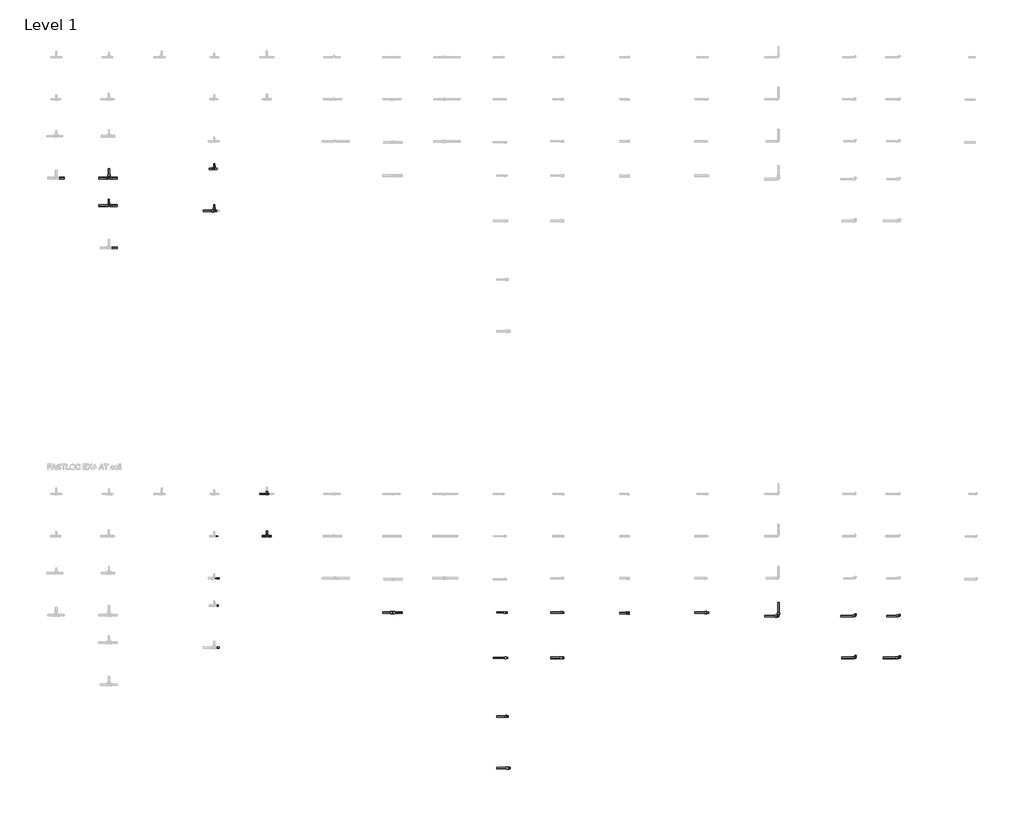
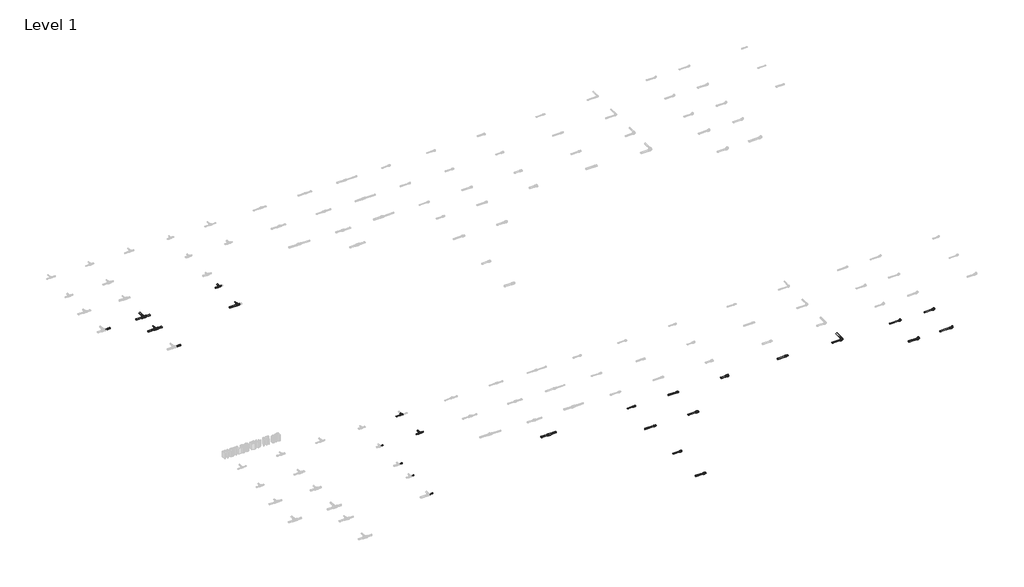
# One storey, part 7 of 16: 36 pipe segments, 20 pipe fittings.
"""IFC4 building model written with IfcOpenShell, lengths in millimetres."""

from ifc_helpers import new_model, si_unit, point, frame, frame_2d, origin, place, context, project, spatial, circle_curve, trimmed, segment, composite_curve, outline, extrude, transform, mapped, element, save
from components import pipe_fitting_5ed0d7cb, pipe_fitting_a2ce5f58, pipe_fitting_431f7250, pipe_fitting_a4fef31a, pipe_fitting_24cae873, pipe_fitting_eea56ca5, pipe_fitting_715ab4bf, pipe_fitting_cb24982a, pipe_fitting_3031d961, pipe_fitting_7921c085, pipe_fitting_502111f3, pipe_fitting_c3e7e8f9, pipe_fitting_baae1e9c, pipe_fitting_c646100e, pipe_fitting_f5731c1c, pipe_fitting_006a9863, pipe_fitting_fe659845, pipe_fitting_76e4ea32, pipe_fitting_18fcccac, pipe_fitting_1e296f3b

model = new_model("IFC4")

# Units and contexts
model_context = context("Model", 3, world=origin())
ifc_project = project(units=[si_unit("LENGTHUNIT", "METRE", prefix="MILLI")], contexts=[model_context])

# Site, building, storey
site = spatial("IfcSite", under=ifc_project)
building = spatial("IfcBuilding", under=site)
storey = spatial("IfcBuildingStorey", under=building, Name="Level 1", Elevation=0.0)

# Pipe fittings
placement = place(None, origin())
pipe_fitting_shape = pipe_fitting_5ed0d7cb(model_context)
element("IfcPipeFitting", 1, ObjectType="FASTLOC_Adapter_RX+, with external thread : FSL A C external EX+ AT", at=placement, inside=storey, context=model_context, shape_type="MappedRepresentation", body=[
    mapped(pipe_fitting_shape, transform((37498.2332092, -8539.0537829, 0.0), x_axis=(1.0, 0.0, 0.0), y_axis=(0.0, 1.0, 0.0), z_axis=(0.0, 0.0, 1.0))),
])
pipe_fitting_2_shape = pipe_fitting_a2ce5f58(model_context)
element("IfcPipeFitting", 2, ObjectType="FASTLOC_Adapter_RX+, with external thread : FSL A C external EX+ AT", at=placement, inside=storey, context=model_context, shape_type="MappedRepresentation", body=[
    mapped(pipe_fitting_2_shape, transform((37510.8952889, -9399.407392, 0.0), x_axis=(1.0, 0.0, 0.0), y_axis=(0.0, 1.0, 0.0), z_axis=(0.0, 0.0, 1.0))),
])
pipe_fitting_3_shape = pipe_fitting_431f7250(model_context)
element("IfcPipeFitting", 3, ObjectType="FASTLOC_Adapter_RX+, with external thread : FSL A C external EX+ AT", at=placement, inside=storey, context=model_context, shape_type="MappedRepresentation", body=[
    mapped(pipe_fitting_3_shape, transform((37515.9601208, -10513.6704117, 0.0), x_axis=(1.0, 0.0, 0.0), y_axis=(0.0, 1.0, 0.0), z_axis=(0.0, 0.0, 1.0))),
])
pipe_fitting_4_shape = pipe_fitting_a4fef31a(model_context)
element("IfcPipeFitting", 4, ObjectType="FASTLOC_Adapter_RX+, with external thread : FSL A C external EX+ AT", at=placement, inside=storey, context=model_context, shape_type="MappedRepresentation", body=[
    mapped(pipe_fitting_4_shape, transform((37553.9463601, -11493.7153858, 0.0), x_axis=(1.0, 0.0, 0.0), y_axis=(0.0, 1.0, 0.0), z_axis=(0.0, 0.0, 1.0))),
])
pipe_fitting_5_shape = pipe_fitting_24cae873(model_context)
element("IfcPipeFitting", 5, ObjectType="FASTLOC_Corner EX+ : FSL C EX+ AT", at=placement, inside=storey, context=model_context, shape_type="MappedRepresentation", body=[
    mapped(pipe_fitting_5_shape, transform((42675.3824015, -8604.9640428, 0.0), x_axis=(1.0, 0.0, 0.0), y_axis=(0.0, 1.0, 0.0), z_axis=(0.0, 0.0, 1.0))),
])
pipe_fitting_6_shape = pipe_fitting_eea56ca5(model_context)
element("IfcPipeFitting", 6, ObjectType="FASTLOC_Elbow with female thread EX+ : FSL A internal AT", at=placement, inside=storey, context=model_context, shape_type="MappedRepresentation", body=[
    mapped(pipe_fitting_6_shape, transform((44973.8113057, -8604.9640428, 0.0), x_axis=(1.0, 0.0, 0.0), y_axis=(0.0, 1.0, 0.0), z_axis=(0.0, 0.0, 1.0))),
])
pipe_fitting_7_shape = pipe_fitting_715ab4bf(model_context)
element("IfcPipeFitting", 7, ObjectType="FASTLOC_Elbow with female thread EX+ : FSL A internal AT", at=placement, inside=storey, context=model_context, shape_type="MappedRepresentation", body=[
    mapped(pipe_fitting_7_shape, transform((44973.8113057, -9399.407392, 0.0), x_axis=(1.0, 0.0, 0.0), y_axis=(0.0, 1.0, 0.0), z_axis=(0.0, 0.0, 1.0))),
])
pipe_fitting_8_shape = pipe_fitting_cb24982a(model_context)
element("IfcPipeFitting", 8, ObjectType="FASTLOC_Elbow with male thread EX+ : FSL A internal AT", at=placement, inside=storey, context=model_context, shape_type="MappedRepresentation", body=[
    mapped(pipe_fitting_8_shape, transform((44135.3824015, -8604.9640428, 0.0), x_axis=(1.0, 0.0, 0.0), y_axis=(0.0, 1.0, 0.0), z_axis=(0.0, 0.0, 1.0))),
])
pipe_fitting_9_shape = pipe_fitting_3031d961(model_context)
element("IfcPipeFitting", 9, ObjectType="FASTLOC_Elbow with male thread EX+ : FSL A internal AT", at=placement, inside=storey, context=model_context, shape_type="MappedRepresentation", body=[
    mapped(pipe_fitting_9_shape, transform((44135.3824015, -9399.407392, 0.0), x_axis=(1.0, 0.0, 0.0), y_axis=(0.0, 1.0, 0.0), z_axis=(0.0, 0.0, 1.0))),
])
pipe_fitting_10_shape = pipe_fitting_7921c085(model_context)
element("IfcPipeFitting", 10, ObjectType="FASTLOC_T-piece_EX+ : FSL T-Piece EX+ DE", at=placement, inside=storey, context=model_context, shape_type="MappedRepresentation", body=[
    mapped(pipe_fitting_10_shape, transform((29962.9146925, -287.6479967, 0.0), x_axis=(1.0, 0.0, 0.0), y_axis=(0.0, 1.0, 0.0), z_axis=(0.0, 0.0, 1.0))),
])
pipe_fitting_11_shape = pipe_fitting_502111f3(model_context)
element("IfcPipeFitting", 11, ObjectType="FASTLOC_T-piece_EX+ : FSL T-Piece EX+ DE", at=placement, inside=storey, context=model_context, shape_type="MappedRepresentation", body=[
    mapped(pipe_fitting_11_shape, transform((29962.9146925, -807.6479967, 0.0), x_axis=(1.0, 0.0, 0.0), y_axis=(0.0, 1.0, 0.0), z_axis=(0.0, 0.0, 1.0))),
])
pipe_fitting_12_shape = pipe_fitting_c3e7e8f9(model_context)
element("IfcPipeFitting", 12, ObjectType="FASTLOC_T-piece_EX+ : FSL T-Piece EX+ DE", at=placement, inside=storey, context=model_context, shape_type="MappedRepresentation", body=[
    mapped(pipe_fitting_12_shape, transform((31962.9146925, -907.6479967, 0.0), x_axis=(1.0, 0.0, 0.0), y_axis=(0.0, 1.0, 0.0), z_axis=(0.0, 0.0, 1.0))),
])
pipe_fitting_13_shape = pipe_fitting_baae1e9c(model_context)
element("IfcPipeFitting", 13, ObjectType="FASTLOC_T-piece_EX+ : FSL T-Piece EX+ DE", at=placement, inside=storey, context=model_context, shape_type="MappedRepresentation", body=[
    mapped(pipe_fitting_13_shape, transform((31962.9146925, -107.6479967, 0.0), x_axis=(1.0, 0.0, 0.0), y_axis=(0.0, 1.0, 0.0), z_axis=(0.0, 0.0, 1.0))),
])
pipe_fitting_14_shape = pipe_fitting_c646100e(model_context)
element("IfcPipeFitting", 14, ObjectType="FASTLOC_T-piece_EX+ : FSL T-Piece EX+ AT", at=placement, inside=storey, context=model_context, shape_type="MappedRepresentation", body=[
    mapped(pipe_fitting_14_shape, transform((32962.9146925, -7087.6479967, 0.0), x_axis=(1.0, 0.0, 0.0), y_axis=(0.0, 1.0, 0.0), z_axis=(0.0, 0.0, 1.0))),
])
pipe_fitting_15_shape = pipe_fitting_f5731c1c(model_context)
element("IfcPipeFitting", 15, ObjectType="FASTLOC_Coupling equal EX+ : FSL C EQ EX+ AT", at=placement, inside=storey, context=model_context, shape_type="MappedRepresentation", body=[
    mapped(pipe_fitting_15_shape, transform((35347.6401575, -8539.0537829, 0.0), x_axis=(1.0, 0.0, 0.0), y_axis=(0.0, 1.0, 0.0), z_axis=(0.0, 0.0, 1.0))),
])
pipe_fitting_16_shape = pipe_fitting_006a9863(model_context)
element("IfcPipeFitting", 16, ObjectType="FASTLOC_T-piece_EX+ : FSL T-Piece EX+ AT", at=placement, inside=storey, context=model_context, shape_type="MappedRepresentation", body=[
    mapped(pipe_fitting_16_shape, transform((32962.9146925, -6287.6479967, 0.0), x_axis=(1.0, 0.0, 0.0), y_axis=(0.0, 1.0, 0.0), z_axis=(0.0, 0.0, 1.0))),
])
pipe_fitting_17_shape = pipe_fitting_fe659845(model_context)
element("IfcPipeFitting", 17, ObjectType="FASTLOC Copper press adapter RX+ : FSL RX+ AT", at=placement, inside=storey, context=model_context, shape_type="MappedRepresentation", body=[
    mapped(pipe_fitting_17_shape, transform((41315.3824015, -8539.0537829, 0.0), x_axis=(1.0, 0.0, 0.0), y_axis=(0.0, 1.0, 0.0), z_axis=(0.0, 0.0, 1.0))),
])
pipe_fitting_18_shape = pipe_fitting_76e4ea32(model_context)
element("IfcPipeFitting", 18, ObjectType="FASTLOC_Adapter with union nut EX+ : FSL A union nut EX+ AT", at=placement, inside=storey, context=model_context, shape_type="MappedRepresentation", body=[
    mapped(pipe_fitting_18_shape, transform((39818.3503777, -8547.0537829, 0.0), x_axis=(1.0, 0.0, 0.0), y_axis=(0.0, 1.0, 0.0), z_axis=(0.0, 0.0, 1.0))),
])
pipe_fitting_19_shape = pipe_fitting_18fcccac(model_context)
element("IfcPipeFitting", 19, ObjectType="FASTLOC_Adapter_EX+, with internal thread : FSL A internal AT", at=placement, inside=storey, context=model_context, shape_type="MappedRepresentation", body=[
    mapped(pipe_fitting_19_shape, transform((38579.5143796, -8539.0537829, 0.0), x_axis=(1.0, 0.0, 0.0), y_axis=(0.0, 1.0, 0.0), z_axis=(0.0, 0.0, 1.0))),
])
pipe_fitting_20_shape = pipe_fitting_1e296f3b(model_context)
element("IfcPipeFitting", 20, ObjectType="FASTLOC_Adapter_EX+, with internal thread : FSL A internal AT", at=placement, inside=storey, context=model_context, shape_type="MappedRepresentation", body=[
    mapped(pipe_fitting_20_shape, transform((38579.5143796, -9399.407392, 0.0), x_axis=(1.0, 0.0, 0.0), y_axis=(0.0, 1.0, 0.0), z_axis=(0.0, 0.0, 1.0))),
])

# Pipe segments
element("IfcPipeSegment", 21, ObjectType="FASTLOC EX+ ML DE coil", at=placement, inside=storey, context=model_context, shape_type="SweptSolid", body=[
    extrude(outline(composite_curve([segment(trimmed(circle_curve(frame_2d((0.0, 31962.9146925)), 10.0), [point((0.0, 31972.9146925))], [point((10.0, 31962.9146925))], False, "CARTESIAN"), True, "CONTINUOUS"), segment(trimmed(circle_curve(frame_2d((0.0, 31962.9146925)), 10.0), [point((10.0, 31962.9146925))], [point((0.0, 31952.9146925))], False, "CARTESIAN"), True, "CONTINUOUS"), segment(trimmed(circle_curve(frame_2d((0.0, 31962.9146925)), 10.0), [point((0.0, 31952.9146925))], [point((-10.0, 31962.9146925))], False, "CARTESIAN"), True, "CONTINUOUS"), segment(trimmed(circle_curve(frame_2d((0.0, 31962.9146925)), 10.0), [point((-10.0, 31962.9146925))], [point((0.0, 31972.9146925))], False, "CARTESIAN"), True, "CONTINUOUS")], self_intersect=False)), frame((0.0, -78.4479967, 0.0), z_axis=(0.0, 1.0, 0.0), x_axis=(0.0, 0.0, 1.0)), (0.0, 0.0, 1.0), 65.0),
])
element("IfcPipeSegment", 22, ObjectType="FASTLOC EX+ ML DE coil", at=placement, inside=storey, context=model_context, shape_type="SweptSolid", body=[
    extrude(outline(composite_curve([segment(trimmed(circle_curve(frame_2d((-107.6479967, 0.0)), 12.5), [point((-95.1479967, 0.0))], [point((-107.6479967, -12.5))], False, "CARTESIAN"), True, "CONTINUOUS"), segment(trimmed(circle_curve(frame_2d((-107.6479967, 0.0)), 12.5), [point((-107.6479967, -12.5))], [point((-120.1479967, 0.0))], False, "CARTESIAN"), True, "CONTINUOUS"), segment(trimmed(circle_curve(frame_2d((-107.6479967, 0.0)), 12.5), [point((-120.1479967, 0.0))], [point((-107.6479967, 12.5))], False, "CARTESIAN"), True, "CONTINUOUS"), segment(trimmed(circle_curve(frame_2d((-107.6479967, 0.0)), 12.5), [point((-107.6479967, 12.5))], [point((-95.1479967, 0.0))], False, "CARTESIAN"), True, "CONTINUOUS")], self_intersect=False)), frame((31864.6146925, 0.0, 0.0), z_axis=(1.0, 0.0, 0.0), x_axis=(0.0, 1.0, 0.0)), (0.0, 0.0, 1.0), 80.0),
])
element("IfcPipeSegment", 23, ObjectType="FASTLOC EX+ ML DE coil", at=placement, inside=storey, context=model_context, shape_type="SweptSolid", body=[
    extrude(outline(composite_curve([segment(trimmed(circle_curve(frame_2d((0.0, 31962.9146925)), 12.5), [point((0.0, 31975.4146925))], [point((12.5, 31962.9146925))], False, "CARTESIAN"), True, "CONTINUOUS"), segment(trimmed(circle_curve(frame_2d((0.0, 31962.9146925)), 12.5), [point((12.5, 31962.9146925))], [point((0.0, 31950.4146925))], False, "CARTESIAN"), True, "CONTINUOUS"), segment(trimmed(circle_curve(frame_2d((0.0, 31962.9146925)), 12.5), [point((0.0, 31950.4146925))], [point((-12.5, 31962.9146925))], False, "CARTESIAN"), True, "CONTINUOUS"), segment(trimmed(circle_curve(frame_2d((0.0, 31962.9146925)), 12.5), [point((-12.5, 31962.9146925))], [point((0.0, 31975.4146925))], False, "CARTESIAN"), True, "CONTINUOUS")], self_intersect=False)), frame((0.0, -873.2479967, 0.0), z_axis=(0.0, 1.0, 0.0), x_axis=(0.0, 0.0, 1.0)), (0.0, 0.0, 1.0), 85.0),
])
element("IfcPipeSegment", 24, ObjectType="FASTLOC EX+ ML DE coil", at=placement, inside=storey, context=model_context, shape_type="SweptSolid", body=[
    extrude(outline(composite_curve([segment(trimmed(circle_curve(frame_2d((-907.6479967, 0.0)), 16.0), [point((-891.6479967, 0.0))], [point((-907.6479967, -16.0))], False, "CARTESIAN"), True, "CONTINUOUS"), segment(trimmed(circle_curve(frame_2d((-907.6479967, 0.0)), 16.0), [point((-907.6479967, -16.0))], [point((-923.6479967, 0.0))], False, "CARTESIAN"), True, "CONTINUOUS"), segment(trimmed(circle_curve(frame_2d((-907.6479967, 0.0)), 16.0), [point((-923.6479967, 0.0))], [point((-907.6479967, 16.0))], False, "CARTESIAN"), True, "CONTINUOUS"), segment(trimmed(circle_curve(frame_2d((-907.6479967, 0.0)), 16.0), [point((-907.6479967, 16.0))], [point((-891.6479967, 0.0))], False, "CARTESIAN"), True, "CONTINUOUS")], self_intersect=False)), frame((31755.8146925, 0.0, 0.0), z_axis=(1.0, 0.0, 0.0), x_axis=(0.0, 1.0, 0.0)), (0.0, 0.0, 1.0), 185.0),
])
element("IfcPipeSegment", 25, ObjectType="FASTLOC EX+ ML DE coil", at=placement, inside=storey, context=model_context, shape_type="SweptSolid", body=[
    extrude(outline(composite_curve([segment(trimmed(circle_curve(frame_2d((-287.6479967, 0.0)), 16.0), [point((-303.6479967, 0.0))], [point((-287.6479967, 16.0))], False, "CARTESIAN"), True, "CONTINUOUS"), segment(trimmed(circle_curve(frame_2d((-287.6479967, 0.0)), 16.0), [point((-287.6479967, 16.0))], [point((-271.6479967, 0.0))], False, "CARTESIAN"), True, "CONTINUOUS"), segment(trimmed(circle_curve(frame_2d((-287.6479967, 0.0)), 16.0), [point((-271.6479967, 0.0))], [point((-287.6479967, -16.0))], False, "CARTESIAN"), True, "CONTINUOUS"), segment(trimmed(circle_curve(frame_2d((-287.6479967, 0.0)), 16.0), [point((-287.6479967, -16.0))], [point((-303.6479967, 0.0))], False, "CARTESIAN"), True, "CONTINUOUS")], self_intersect=False)), frame((29987.7146925, 0.0, 0.0), z_axis=(1.0, 0.0, 0.0), x_axis=(0.0, 1.0, 0.0)), (0.0, 0.0, 1.0), 130.0),
])
element("IfcPipeSegment", 26, ObjectType="FASTLOC EX+ ML DE coil", at=placement, inside=storey, context=model_context, shape_type="SweptSolid", body=[
    extrude(outline(composite_curve([segment(trimmed(circle_curve(frame_2d((0.0, 29962.9146925)), 16.0), [point((0.0, 29978.9146925))], [point((16.0, 29962.9146925))], False, "CARTESIAN"), True, "CONTINUOUS"), segment(trimmed(circle_curve(frame_2d((0.0, 29962.9146925)), 16.0), [point((16.0, 29962.9146925))], [point((0.0, 29946.9146925))], False, "CARTESIAN"), True, "CONTINUOUS"), segment(trimmed(circle_curve(frame_2d((0.0, 29962.9146925)), 16.0), [point((0.0, 29946.9146925))], [point((-16.0, 29962.9146925))], False, "CARTESIAN"), True, "CONTINUOUS"), segment(trimmed(circle_curve(frame_2d((0.0, 29962.9146925)), 16.0), [point((-16.0, 29962.9146925))], [point((0.0, 29978.9146925))], False, "CARTESIAN"), True, "CONTINUOUS")], self_intersect=False)), frame((0.0, -251.5479967, 0.0), z_axis=(0.0, 1.0, 0.0), x_axis=(0.0, 0.0, 1.0)), (0.0, 0.0, 1.0), 145.0),
])
element("IfcPipeSegment", 27, ObjectType="FASTLOC EX+ ML DE coil", at=placement, inside=storey, context=model_context, shape_type="SweptSolid", body=[
    extrude(outline(composite_curve([segment(trimmed(circle_curve(frame_2d((-287.6479967, 0.0)), 16.0), [point((-271.6479967, 0.0))], [point((-287.6479967, -16.0))], False, "CARTESIAN"), True, "CONTINUOUS"), segment(trimmed(circle_curve(frame_2d((-287.6479967, 0.0)), 16.0), [point((-287.6479967, -16.0))], [point((-303.6479967, 0.0))], False, "CARTESIAN"), True, "CONTINUOUS"), segment(trimmed(circle_curve(frame_2d((-287.6479967, 0.0)), 16.0), [point((-303.6479967, 0.0))], [point((-287.6479967, 16.0))], False, "CARTESIAN"), True, "CONTINUOUS"), segment(trimmed(circle_curve(frame_2d((-287.6479967, 0.0)), 16.0), [point((-287.6479967, 16.0))], [point((-271.6479967, 0.0))], False, "CARTESIAN"), True, "CONTINUOUS")], self_intersect=False)), frame((29773.1146925, 0.0, 0.0), z_axis=(1.0, 0.0, 0.0), x_axis=(0.0, 1.0, 0.0)), (0.0, 0.0, 1.0), 165.0),
])
element("IfcPipeSegment", 28, ObjectType="FASTLOC EX+ ML DE coil", at=placement, inside=storey, context=model_context, shape_type="SweptSolid", body=[
    extrude(outline(composite_curve([segment(trimmed(circle_curve(frame_2d((-807.6479967, 0.0)), 16.0), [point((-823.6479967, 0.0))], [point((-807.6479967, 16.0))], False, "CARTESIAN"), True, "CONTINUOUS"), segment(trimmed(circle_curve(frame_2d((-807.6479967, 0.0)), 16.0), [point((-807.6479967, 16.0))], [point((-791.6479967, 0.0))], False, "CARTESIAN"), True, "CONTINUOUS"), segment(trimmed(circle_curve(frame_2d((-807.6479967, 0.0)), 16.0), [point((-791.6479967, 0.0))], [point((-807.6479967, -16.0))], False, "CARTESIAN"), True, "CONTINUOUS"), segment(trimmed(circle_curve(frame_2d((-807.6479967, 0.0)), 16.0), [point((-807.6479967, -16.0))], [point((-823.6479967, 0.0))], False, "CARTESIAN"), True, "CONTINUOUS")], self_intersect=False)), frame((29983.1146925, 0.0, 0.0), z_axis=(1.0, 0.0, 0.0), x_axis=(0.0, 1.0, 0.0)), (0.0, 0.0, 1.0), 134.6),
])
element("IfcPipeSegment", 29, ObjectType="FASTLOC EX+ ML DE coil", at=placement, inside=storey, context=model_context, shape_type="SweptSolid", body=[
    extrude(outline(composite_curve([segment(trimmed(circle_curve(frame_2d((-807.6479967, 0.0)), 16.0), [point((-791.6479967, 0.0))], [point((-807.6479967, -16.0))], False, "CARTESIAN"), True, "CONTINUOUS"), segment(trimmed(circle_curve(frame_2d((-807.6479967, 0.0)), 16.0), [point((-807.6479967, -16.0))], [point((-823.6479967, 0.0))], False, "CARTESIAN"), True, "CONTINUOUS"), segment(trimmed(circle_curve(frame_2d((-807.6479967, 0.0)), 16.0), [point((-823.6479967, 0.0))], [point((-807.6479967, 16.0))], False, "CARTESIAN"), True, "CONTINUOUS"), segment(trimmed(circle_curve(frame_2d((-807.6479967, 0.0)), 16.0), [point((-807.6479967, 16.0))], [point((-791.6479967, 0.0))], False, "CARTESIAN"), True, "CONTINUOUS")], self_intersect=False)), frame((29773.1146925, 0.0, 0.0), z_axis=(1.0, 0.0, 0.0), x_axis=(0.0, 1.0, 0.0)), (0.0, 0.0, 1.0), 169.6),
])
element("IfcPipeSegment", 30, ObjectType="FASTLOC EX+ ML DE coil", at=placement, inside=storey, context=model_context, shape_type="SweptSolid", body=[
    extrude(outline(composite_curve([segment(trimmed(circle_curve(frame_2d((0.0, 29962.9146925)), 10.0), [point((0.0, 29972.9146925))], [point((10.0, 29962.9146925))], False, "CARTESIAN"), True, "CONTINUOUS"), segment(trimmed(circle_curve(frame_2d((0.0, 29962.9146925)), 10.0), [point((10.0, 29962.9146925))], [point((0.0, 29952.9146925))], False, "CARTESIAN"), True, "CONTINUOUS"), segment(trimmed(circle_curve(frame_2d((0.0, 29962.9146925)), 10.0), [point((0.0, 29952.9146925))], [point((-10.0, 29962.9146925))], False, "CARTESIAN"), True, "CONTINUOUS"), segment(trimmed(circle_curve(frame_2d((0.0, 29962.9146925)), 10.0), [point((-10.0, 29962.9146925))], [point((0.0, 29972.9146925))], False, "CARTESIAN"), True, "CONTINUOUS")], self_intersect=False)), frame((0.0, -773.6479967, 0.0), z_axis=(0.0, 1.0, 0.0), x_axis=(0.0, 0.0, 1.0)), (0.0, 0.0, 1.0), 90.0),
])
element("IfcPipeSegment", 31, ObjectType="FASTLOC EX+ ML DE coil", at=placement, inside=storey, context=model_context, shape_type="SweptSolid", body=[
    extrude(outline(composite_curve([segment(trimmed(circle_curve(frame_2d((-1607.6479967, 0.0)), 16.0), [point((-1623.6479967, 0.0))], [point((-1607.6479967, 16.0))], False, "CARTESIAN"), True, "CONTINUOUS"), segment(trimmed(circle_curve(frame_2d((-1607.6479967, 0.0)), 16.0), [point((-1607.6479967, 16.0))], [point((-1591.6479967, 0.0))], False, "CARTESIAN"), True, "CONTINUOUS"), segment(trimmed(circle_curve(frame_2d((-1607.6479967, 0.0)), 16.0), [point((-1591.6479967, 0.0))], [point((-1607.6479967, -16.0))], False, "CARTESIAN"), True, "CONTINUOUS"), segment(trimmed(circle_curve(frame_2d((-1607.6479967, 0.0)), 16.0), [point((-1607.6479967, -16.0))], [point((-1623.6479967, 0.0))], False, "CARTESIAN"), True, "CONTINUOUS")], self_intersect=False)), frame((29984.9146925, 0.0, 0.0), z_axis=(1.0, 0.0, 0.0), x_axis=(0.0, 1.0, 0.0)), (0.0, 0.0, 1.0), 132.8),
])
element("IfcPipeSegment", 32, ObjectType="FASTLOC EX+ ML DE coil", at=placement, inside=storey, context=model_context, shape_type="SweptSolid", body=[
    extrude(outline(composite_curve([segment(trimmed(circle_curve(frame_2d((-287.6479967, 0.0)), 16.0), [point((-303.6479967, 0.0))], [point((-287.6479967, 16.0))], False, "CARTESIAN"), True, "CONTINUOUS"), segment(trimmed(circle_curve(frame_2d((-287.6479967, 0.0)), 16.0), [point((-287.6479967, 16.0))], [point((-271.6479967, 0.0))], False, "CARTESIAN"), True, "CONTINUOUS"), segment(trimmed(circle_curve(frame_2d((-287.6479967, 0.0)), 16.0), [point((-271.6479967, 0.0))], [point((-287.6479967, -16.0))], False, "CARTESIAN"), True, "CONTINUOUS"), segment(trimmed(circle_curve(frame_2d((-287.6479967, 0.0)), 16.0), [point((-287.6479967, -16.0))], [point((-303.6479967, 0.0))], False, "CARTESIAN"), True, "CONTINUOUS")], self_intersect=False)), frame((28987.7146925, 0.0, 0.0), z_axis=(1.0, 0.0, 0.0), x_axis=(0.0, 1.0, 0.0)), (0.0, 0.0, 1.0), 130.0),
])
element("IfcPipeSegment", 33, ObjectType="FASTLOC EX+ ML AT coil", at=placement, inside=storey, context=model_context, shape_type="SweptSolid", body=[
    extrude(outline(composite_curve([segment(trimmed(circle_curve(frame_2d((-8604.9640428, 0.0)), 12.5), [point((-8592.4640428, 0.0))], [point((-8604.9640428, -12.5))], False, "CARTESIAN"), True, "CONTINUOUS"), segment(trimmed(circle_curve(frame_2d((-8604.9640428, 0.0)), 12.5), [point((-8604.9640428, -12.5))], [point((-8617.4640428, 0.0))], False, "CARTESIAN"), True, "CONTINUOUS"), segment(trimmed(circle_curve(frame_2d((-8604.9640428, 0.0)), 12.5), [point((-8617.4640428, 0.0))], [point((-8604.9640428, 12.5))], False, "CARTESIAN"), True, "CONTINUOUS"), segment(trimmed(circle_curve(frame_2d((-8604.9640428, 0.0)), 12.5), [point((-8604.9640428, 12.5))], [point((-8592.4640428, 0.0))], False, "CARTESIAN"), True, "CONTINUOUS")], self_intersect=False)), frame((44726.8113057, 0.0, 0.0), z_axis=(1.0, 0.0, 0.0), x_axis=(0.0, 1.0, 0.0)), (0.0, 0.0, 1.0), 220.0),
])
element("IfcPipeSegment", 34, ObjectType="FASTLOC EX+ ML AT coil", at=placement, inside=storey, context=model_context, shape_type="SweptSolid", body=[
    extrude(outline(composite_curve([segment(trimmed(circle_curve(frame_2d((-8604.9640428, 0.0)), 12.5), [point((-8592.4640428, 0.0))], [point((-8604.9640428, -12.5))], False, "CARTESIAN"), True, "CONTINUOUS"), segment(trimmed(circle_curve(frame_2d((-8604.9640428, 0.0)), 12.5), [point((-8604.9640428, -12.5))], [point((-8617.4640428, 0.0))], False, "CARTESIAN"), True, "CONTINUOUS"), segment(trimmed(circle_curve(frame_2d((-8604.9640428, 0.0)), 12.5), [point((-8617.4640428, 0.0))], [point((-8604.9640428, 12.5))], False, "CARTESIAN"), True, "CONTINUOUS"), segment(trimmed(circle_curve(frame_2d((-8604.9640428, 0.0)), 12.5), [point((-8604.9640428, 12.5))], [point((-8592.4640428, 0.0))], False, "CARTESIAN"), True, "CONTINUOUS")], self_intersect=False)), frame((43861.1824015, 0.0, 0.0), z_axis=(1.0, 0.0, 0.0), x_axis=(0.0, 1.0, 0.0)), (0.0, 0.0, 1.0), 250.0),
])
element("IfcPipeSegment", 35, ObjectType="FASTLOC EX+ ML AT coil", at=placement, inside=storey, context=model_context, shape_type="SweptSolid", body=[
    extrude(outline(composite_curve([segment(trimmed(circle_curve(frame_2d((-9399.407392, 0.0)), 16.0), [point((-9383.407392, 0.0))], [point((-9399.407392, -16.0))], False, "CARTESIAN"), True, "CONTINUOUS"), segment(trimmed(circle_curve(frame_2d((-9399.407392, 0.0)), 16.0), [point((-9399.407392, -16.0))], [point((-9415.407392, 0.0))], False, "CARTESIAN"), True, "CONTINUOUS"), segment(trimmed(circle_curve(frame_2d((-9399.407392, 0.0)), 16.0), [point((-9415.407392, 0.0))], [point((-9399.407392, 16.0))], False, "CARTESIAN"), True, "CONTINUOUS"), segment(trimmed(circle_curve(frame_2d((-9399.407392, 0.0)), 16.0), [point((-9399.407392, 16.0))], [point((-9383.407392, 0.0))], False, "CARTESIAN"), True, "CONTINUOUS")], self_intersect=False)), frame((43875.6824015, 0.0, 0.0), z_axis=(1.0, 0.0, 0.0), x_axis=(0.0, 1.0, 0.0)), (0.0, 0.0, 1.0), 230.0),
])
element("IfcPipeSegment", 36, ObjectType="FASTLOC EX+ ML AT coil", at=placement, inside=storey, context=model_context, shape_type="SweptSolid", body=[
    extrude(outline(composite_curve([segment(trimmed(circle_curve(frame_2d((-9399.407392, 0.0)), 16.0), [point((-9383.407392, 0.0))], [point((-9399.407392, -16.0))], False, "CARTESIAN"), True, "CONTINUOUS"), segment(trimmed(circle_curve(frame_2d((-9399.407392, 0.0)), 16.0), [point((-9399.407392, -16.0))], [point((-9415.407392, 0.0))], False, "CARTESIAN"), True, "CONTINUOUS"), segment(trimmed(circle_curve(frame_2d((-9399.407392, 0.0)), 16.0), [point((-9415.407392, 0.0))], [point((-9399.407392, 16.0))], False, "CARTESIAN"), True, "CONTINUOUS"), segment(trimmed(circle_curve(frame_2d((-9399.407392, 0.0)), 16.0), [point((-9399.407392, 16.0))], [point((-9383.407392, 0.0))], False, "CARTESIAN"), True, "CONTINUOUS")], self_intersect=False)), frame((44661.8113057, 0.0, 0.0), z_axis=(1.0, 0.0, 0.0), x_axis=(0.0, 1.0, 0.0)), (0.0, 0.0, 1.0), 280.0),
])
element("IfcPipeSegment", 37, ObjectType="FASTLOC EX+ ML AT coil", at=placement, inside=storey, context=model_context, shape_type="SweptSolid", body=[
    extrude(outline(composite_curve([segment(trimmed(circle_curve(frame_2d((0.0, 42675.3824015)), 16.0), [point((0.0, 42691.3824015))], [point((16.0, 42675.3824015))], False, "CARTESIAN"), True, "CONTINUOUS"), segment(trimmed(circle_curve(frame_2d((0.0, 42675.3824015)), 16.0), [point((16.0, 42675.3824015))], [point((0.0, 42659.3824015))], False, "CARTESIAN"), True, "CONTINUOUS"), segment(trimmed(circle_curve(frame_2d((0.0, 42675.3824015)), 16.0), [point((0.0, 42659.3824015))], [point((-16.0, 42675.3824015))], False, "CARTESIAN"), True, "CONTINUOUS"), segment(trimmed(circle_curve(frame_2d((0.0, 42675.3824015)), 16.0), [point((-16.0, 42675.3824015))], [point((0.0, 42691.3824015))], False, "CARTESIAN"), True, "CONTINUOUS")], self_intersect=False)), frame((0.0, -8569.9640428, 0.0), z_axis=(0.0, 1.0, 0.0), x_axis=(0.0, 0.0, 1.0)), (0.0, 0.0, 1.0), 220.0),
])
element("IfcPipeSegment", 38, ObjectType="FASTLOC EX+ ML AT coil", at=placement, inside=storey, context=model_context, shape_type="SweptSolid", body=[
    extrude(outline(composite_curve([segment(trimmed(circle_curve(frame_2d((-8604.9640428, 0.0)), 16.0), [point((-8588.9640428, 0.0))], [point((-8604.9640428, -16.0))], False, "CARTESIAN"), True, "CONTINUOUS"), segment(trimmed(circle_curve(frame_2d((-8604.9640428, 0.0)), 16.0), [point((-8604.9640428, -16.0))], [point((-8620.9640428, 0.0))], False, "CARTESIAN"), True, "CONTINUOUS"), segment(trimmed(circle_curve(frame_2d((-8604.9640428, 0.0)), 16.0), [point((-8620.9640428, 0.0))], [point((-8604.9640428, 16.0))], False, "CARTESIAN"), True, "CONTINUOUS"), segment(trimmed(circle_curve(frame_2d((-8604.9640428, 0.0)), 16.0), [point((-8604.9640428, 16.0))], [point((-8588.9640428, 0.0))], False, "CARTESIAN"), True, "CONTINUOUS")], self_intersect=False)), frame((42413.2824015, 0.0, 0.0), z_axis=(1.0, 0.0, 0.0), x_axis=(0.0, 1.0, 0.0)), (0.0, 0.0, 1.0), 227.1),
])
element("IfcPipeSegment", 39, ObjectType="FASTLOC EX+ ML AT coil", at=placement, inside=storey, context=model_context, shape_type="SweptSolid", body=[
    extrude(outline(composite_curve([segment(trimmed(circle_curve(frame_2d((-8539.0537829, 0.0)), 16.0), [point((-8523.0537829, 0.0))], [point((-8539.0537829, -16.0))], False, "CARTESIAN"), True, "CONTINUOUS"), segment(trimmed(circle_curve(frame_2d((-8539.0537829, 0.0)), 16.0), [point((-8539.0537829, -16.0))], [point((-8555.0537829, 0.0))], False, "CARTESIAN"), True, "CONTINUOUS"), segment(trimmed(circle_curve(frame_2d((-8539.0537829, 0.0)), 16.0), [point((-8555.0537829, 0.0))], [point((-8539.0537829, 16.0))], False, "CARTESIAN"), True, "CONTINUOUS"), segment(trimmed(circle_curve(frame_2d((-8539.0537829, 0.0)), 16.0), [point((-8539.0537829, 16.0))], [point((-8523.0537829, 0.0))], False, "CARTESIAN"), True, "CONTINUOUS")], self_intersect=False)), frame((41082.2824015, 0.0, 0.0), z_axis=(1.0, 0.0, 0.0), x_axis=(0.0, 1.0, 0.0)), (0.0, 0.0, 1.0), 220.0),
])
element("IfcPipeSegment", 40, ObjectType="FASTLOC EX+ ML AT coil", at=placement, inside=storey, context=model_context, shape_type="SweptSolid", body=[
    extrude(outline(composite_curve([segment(trimmed(circle_curve(frame_2d((-8547.0537829, 0.0)), 16.0), [point((-8531.0537829, 0.0))], [point((-8547.0537829, -16.0))], False, "CARTESIAN"), True, "CONTINUOUS"), segment(trimmed(circle_curve(frame_2d((-8547.0537829, 0.0)), 16.0), [point((-8547.0537829, -16.0))], [point((-8563.0537829, 0.0))], False, "CARTESIAN"), True, "CONTINUOUS"), segment(trimmed(circle_curve(frame_2d((-8547.0537829, 0.0)), 16.0), [point((-8563.0537829, 0.0))], [point((-8547.0537829, 16.0))], False, "CARTESIAN"), True, "CONTINUOUS"), segment(trimmed(circle_curve(frame_2d((-8547.0537829, 0.0)), 16.0), [point((-8547.0537829, 16.0))], [point((-8531.0537829, 0.0))], False, "CARTESIAN"), True, "CONTINUOUS")], self_intersect=False)), frame((39659.3503777, 0.0, 0.0), z_axis=(1.0, 0.0, 0.0), x_axis=(0.0, 1.0, 0.0)), (0.0, 0.0, 1.0), 147.5),
])
element("IfcPipeSegment", 41, ObjectType="FASTLOC EX+ ML AT coil", at=placement, inside=storey, context=model_context, shape_type="SweptSolid", body=[
    extrude(outline(composite_curve([segment(trimmed(circle_curve(frame_2d((-8539.0537829, 0.0)), 12.5), [point((-8526.5537829, 0.0))], [point((-8539.0537829, -12.5))], False, "CARTESIAN"), True, "CONTINUOUS"), segment(trimmed(circle_curve(frame_2d((-8539.0537829, 0.0)), 12.5), [point((-8539.0537829, -12.5))], [point((-8551.5537829, 0.0))], False, "CARTESIAN"), True, "CONTINUOUS"), segment(trimmed(circle_curve(frame_2d((-8539.0537829, 0.0)), 12.5), [point((-8551.5537829, 0.0))], [point((-8539.0537829, 12.5))], False, "CARTESIAN"), True, "CONTINUOUS"), segment(trimmed(circle_curve(frame_2d((-8539.0537829, 0.0)), 12.5), [point((-8539.0537829, 12.5))], [point((-8526.5537829, 0.0))], False, "CARTESIAN"), True, "CONTINUOUS")], self_intersect=False)), frame((38346.6143796, 0.0, 0.0), z_axis=(1.0, 0.0, 0.0), x_axis=(0.0, 1.0, 0.0)), (0.0, 0.0, 1.0), 220.0),
])
element("IfcPipeSegment", 42, ObjectType="FASTLOC EX+ ML AT coil", at=placement, inside=storey, context=model_context, shape_type="SweptSolid", body=[
    extrude(outline(composite_curve([segment(trimmed(circle_curve(frame_2d((-9399.407392, 0.0)), 16.0), [point((-9383.407392, 0.0))], [point((-9399.407392, -16.0))], False, "CARTESIAN"), True, "CONTINUOUS"), segment(trimmed(circle_curve(frame_2d((-9399.407392, 0.0)), 16.0), [point((-9399.407392, -16.0))], [point((-9415.407392, 0.0))], False, "CARTESIAN"), True, "CONTINUOUS"), segment(trimmed(circle_curve(frame_2d((-9399.407392, 0.0)), 16.0), [point((-9415.407392, 0.0))], [point((-9399.407392, 16.0))], False, "CARTESIAN"), True, "CONTINUOUS"), segment(trimmed(circle_curve(frame_2d((-9399.407392, 0.0)), 16.0), [point((-9399.407392, 16.0))], [point((-9383.407392, 0.0))], False, "CARTESIAN"), True, "CONTINUOUS")], self_intersect=False)), frame((38346.6143796, 0.0, 0.0), z_axis=(1.0, 0.0, 0.0), x_axis=(0.0, 1.0, 0.0)), (0.0, 0.0, 1.0), 218.4),
])
element("IfcPipeSegment", 43, ObjectType="FASTLOC EX+ ML AT coil", at=placement, inside=storey, context=model_context, shape_type="SweptSolid", body=[
    extrude(outline(composite_curve([segment(trimmed(circle_curve(frame_2d((-10513.6704117, 0.0)), 12.5), [point((-10501.1704117, 0.0))], [point((-10513.6704117, -12.5))], False, "CARTESIAN"), True, "CONTINUOUS"), segment(trimmed(circle_curve(frame_2d((-10513.6704117, 0.0)), 12.5), [point((-10513.6704117, -12.5))], [point((-10526.1704117, 0.0))], False, "CARTESIAN"), True, "CONTINUOUS"), segment(trimmed(circle_curve(frame_2d((-10513.6704117, 0.0)), 12.5), [point((-10526.1704117, 0.0))], [point((-10513.6704117, 12.5))], False, "CARTESIAN"), True, "CONTINUOUS"), segment(trimmed(circle_curve(frame_2d((-10513.6704117, 0.0)), 12.5), [point((-10513.6704117, 12.5))], [point((-10501.1704117, 0.0))], False, "CARTESIAN"), True, "CONTINUOUS")], self_intersect=False)), frame((37326.5601208, 0.0, 0.0), z_axis=(1.0, 0.0, 0.0), x_axis=(0.0, 1.0, 0.0)), (0.0, 0.0, 1.0), 180.0),
])
element("IfcPipeSegment", 44, ObjectType="FASTLOC EX+ ML AT coil", at=placement, inside=storey, context=model_context, shape_type="SweptSolid", body=[
    extrude(outline(composite_curve([segment(trimmed(circle_curve(frame_2d((-9399.407392, 0.0)), 12.5), [point((-9386.907392, 0.0))], [point((-9399.407392, -12.5))], False, "CARTESIAN"), True, "CONTINUOUS"), segment(trimmed(circle_curve(frame_2d((-9399.407392, 0.0)), 12.5), [point((-9399.407392, -12.5))], [point((-9411.907392, 0.0))], False, "CARTESIAN"), True, "CONTINUOUS"), segment(trimmed(circle_curve(frame_2d((-9399.407392, 0.0)), 12.5), [point((-9411.907392, 0.0))], [point((-9399.407392, 12.5))], False, "CARTESIAN"), True, "CONTINUOUS"), segment(trimmed(circle_curve(frame_2d((-9399.407392, 0.0)), 12.5), [point((-9399.407392, 12.5))], [point((-9386.907392, 0.0))], False, "CARTESIAN"), True, "CONTINUOUS")], self_intersect=False)), frame((37261.4952889, 0.0, 0.0), z_axis=(1.0, 0.0, 0.0), x_axis=(0.0, 1.0, 0.0)), (0.0, 0.0, 1.0), 240.0),
])
element("IfcPipeSegment", 45, ObjectType="FASTLOC EX+ ML AT coil", at=placement, inside=storey, context=model_context, shape_type="SweptSolid", body=[
    extrude(outline(composite_curve([segment(trimmed(circle_curve(frame_2d((-8539.0537829, 0.0)), 10.0), [point((-8529.0537829, 0.0))], [point((-8539.0537829, -10.0))], False, "CARTESIAN"), True, "CONTINUOUS"), segment(trimmed(circle_curve(frame_2d((-8539.0537829, 0.0)), 10.0), [point((-8539.0537829, -10.0))], [point((-8549.0537829, 0.0))], False, "CARTESIAN"), True, "CONTINUOUS"), segment(trimmed(circle_curve(frame_2d((-8539.0537829, 0.0)), 10.0), [point((-8549.0537829, 0.0))], [point((-8539.0537829, 10.0))], False, "CARTESIAN"), True, "CONTINUOUS"), segment(trimmed(circle_curve(frame_2d((-8539.0537829, 0.0)), 10.0), [point((-8539.0537829, 10.0))], [point((-8529.0537829, 0.0))], False, "CARTESIAN"), True, "CONTINUOUS")], self_intersect=False)), frame((37326.5601208, 0.0, 0.0), z_axis=(1.0, 0.0, 0.0), x_axis=(0.0, 1.0, 0.0)), (0.0, 0.0, 1.0), 162.3730883),
])
element("IfcPipeSegment", 46, ObjectType="FASTLOC EX+ ML AT coil", at=placement, inside=storey, context=model_context, shape_type="SweptSolid", body=[
    extrude(outline(composite_curve([segment(trimmed(circle_curve(frame_2d((-8539.0537829, 0.0)), 16.0), [point((-8555.0537829, 0.0))], [point((-8539.0537829, 16.0))], False, "CARTESIAN"), True, "CONTINUOUS"), segment(trimmed(circle_curve(frame_2d((-8539.0537829, 0.0)), 16.0), [point((-8539.0537829, 16.0))], [point((-8523.0537829, 0.0))], False, "CARTESIAN"), True, "CONTINUOUS"), segment(trimmed(circle_curve(frame_2d((-8539.0537829, 0.0)), 16.0), [point((-8523.0537829, 0.0))], [point((-8539.0537829, -16.0))], False, "CARTESIAN"), True, "CONTINUOUS"), segment(trimmed(circle_curve(frame_2d((-8539.0537829, 0.0)), 16.0), [point((-8539.0537829, -16.0))], [point((-8555.0537829, 0.0))], False, "CARTESIAN"), True, "CONTINUOUS")], self_intersect=False)), frame((35357.6401575, 0.0, 0.0), z_axis=(1.0, 0.0, 0.0), x_axis=(0.0, 1.0, 0.0)), (0.0, 0.0, 1.0), 178.0),
])
element("IfcPipeSegment", 47, ObjectType="FASTLOC EX+ ML AT coil", at=placement, inside=storey, context=model_context, shape_type="SweptSolid", body=[
    extrude(outline(composite_curve([segment(trimmed(circle_curve(frame_2d((-8539.0537829, 0.0)), 16.0), [point((-8523.0537829, 0.0))], [point((-8539.0537829, -16.0))], False, "CARTESIAN"), True, "CONTINUOUS"), segment(trimmed(circle_curve(frame_2d((-8539.0537829, 0.0)), 16.0), [point((-8539.0537829, -16.0))], [point((-8555.0537829, 0.0))], False, "CARTESIAN"), True, "CONTINUOUS"), segment(trimmed(circle_curve(frame_2d((-8539.0537829, 0.0)), 16.0), [point((-8555.0537829, 0.0))], [point((-8539.0537829, 16.0))], False, "CARTESIAN"), True, "CONTINUOUS"), segment(trimmed(circle_curve(frame_2d((-8539.0537829, 0.0)), 16.0), [point((-8539.0537829, 16.0))], [point((-8523.0537829, 0.0))], False, "CARTESIAN"), True, "CONTINUOUS")], self_intersect=False)), frame((35157.6401575, 0.0, 0.0), z_axis=(1.0, 0.0, 0.0), x_axis=(0.0, 1.0, 0.0)), (0.0, 0.0, 1.0), 180.0),
])
element("IfcPipeSegment", 48, ObjectType="FASTLOC EX+ ML AT coil", at=placement, inside=storey, context=model_context, shape_type="SweptSolid", body=[
    extrude(outline(composite_curve([segment(trimmed(circle_curve(frame_2d((-6287.6479967, 0.0)), 8.0), [point((-6279.6479967, 0.0))], [point((-6287.6479967, -8.0))], False, "CARTESIAN"), True, "CONTINUOUS"), segment(trimmed(circle_curve(frame_2d((-6287.6479967, 0.0)), 8.0), [point((-6287.6479967, -8.0))], [point((-6295.6479967, 0.0))], False, "CARTESIAN"), True, "CONTINUOUS"), segment(trimmed(circle_curve(frame_2d((-6287.6479967, 0.0)), 8.0), [point((-6295.6479967, 0.0))], [point((-6287.6479967, 8.0))], False, "CARTESIAN"), True, "CONTINUOUS"), segment(trimmed(circle_curve(frame_2d((-6287.6479967, 0.0)), 8.0), [point((-6287.6479967, 8.0))], [point((-6279.6479967, 0.0))], False, "CARTESIAN"), True, "CONTINUOUS")], self_intersect=False)), frame((32826.0146925, 0.0, 0.0), z_axis=(1.0, 0.0, 0.0), x_axis=(0.0, 1.0, 0.0)), (0.0, 0.0, 1.0), 120.0),
])
element("IfcPipeSegment", 49, ObjectType="FASTLOC EX+ ML AT coil", at=placement, inside=storey, context=model_context, shape_type="SweptSolid", body=[
    extrude(outline(composite_curve([segment(trimmed(circle_curve(frame_2d((-7087.6479967, 0.0)), 10.0), [point((-7077.6479967, 0.0))], [point((-7087.6479967, -10.0))], False, "CARTESIAN"), True, "CONTINUOUS"), segment(trimmed(circle_curve(frame_2d((-7087.6479967, 0.0)), 10.0), [point((-7087.6479967, -10.0))], [point((-7097.6479967, 0.0))], False, "CARTESIAN"), True, "CONTINUOUS"), segment(trimmed(circle_curve(frame_2d((-7087.6479967, 0.0)), 10.0), [point((-7097.6479967, 0.0))], [point((-7087.6479967, 10.0))], False, "CARTESIAN"), True, "CONTINUOUS"), segment(trimmed(circle_curve(frame_2d((-7087.6479967, 0.0)), 10.0), [point((-7087.6479967, 10.0))], [point((-7077.6479967, 0.0))], False, "CARTESIAN"), True, "CONTINUOUS")], self_intersect=False)), frame((32868.9146925, 0.0, 0.0), z_axis=(1.0, 0.0, 0.0), x_axis=(0.0, 1.0, 0.0)), (0.0, 0.0, 1.0), 75.0),
])
element("IfcPipeSegment", 50, ObjectType="FASTLOC EX+ ML AT coil", at=placement, inside=storey, context=model_context, shape_type="SweptSolid", body=[
    extrude(outline(composite_curve([segment(trimmed(circle_curve(frame_2d((-7087.6479967, 0.0)), 10.0), [point((-7097.6479967, 0.0))], [point((-7087.6479967, 10.0))], False, "CARTESIAN"), True, "CONTINUOUS"), segment(trimmed(circle_curve(frame_2d((-7087.6479967, 0.0)), 10.0), [point((-7087.6479967, 10.0))], [point((-7077.6479967, 0.0))], False, "CARTESIAN"), True, "CONTINUOUS"), segment(trimmed(circle_curve(frame_2d((-7087.6479967, 0.0)), 10.0), [point((-7077.6479967, 0.0))], [point((-7087.6479967, -10.0))], False, "CARTESIAN"), True, "CONTINUOUS"), segment(trimmed(circle_curve(frame_2d((-7087.6479967, 0.0)), 10.0), [point((-7087.6479967, -10.0))], [point((-7097.6479967, 0.0))], False, "CARTESIAN"), True, "CONTINUOUS")], self_intersect=False)), frame((32981.9146925, 0.0, 0.0), z_axis=(1.0, 0.0, 0.0), x_axis=(0.0, 1.0, 0.0)), (0.0, 0.0, 1.0), 60.0),
])
element("IfcPipeSegment", 51, ObjectType="FASTLOC EX+ ML AT coil", at=placement, inside=storey, context=model_context, shape_type="SweptSolid", body=[
    extrude(outline(composite_curve([segment(trimmed(circle_curve(frame_2d((0.0, 32962.9146925)), 12.5), [point((0.0, 32975.4146925))], [point((12.5, 32962.9146925))], False, "CARTESIAN"), True, "CONTINUOUS"), segment(trimmed(circle_curve(frame_2d((0.0, 32962.9146925)), 12.5), [point((12.5, 32962.9146925))], [point((0.0, 32950.4146925))], False, "CARTESIAN"), True, "CONTINUOUS"), segment(trimmed(circle_curve(frame_2d((0.0, 32962.9146925)), 12.5), [point((0.0, 32950.4146925))], [point((-12.5, 32962.9146925))], False, "CARTESIAN"), True, "CONTINUOUS"), segment(trimmed(circle_curve(frame_2d((0.0, 32962.9146925)), 12.5), [point((-12.5, 32962.9146925))], [point((0.0, 32975.4146925))], False, "CARTESIAN"), True, "CONTINUOUS")], self_intersect=False)), frame((0.0, -7060.8479967, 0.0), z_axis=(0.0, 1.0, 0.0), x_axis=(0.0, 0.0, 1.0)), (0.0, 0.0, 1.0), 70.0),
])
element("IfcPipeSegment", 52, ObjectType="FASTLOC EX+ ML AT coil", at=placement, inside=storey, context=model_context, shape_type="SweptSolid", body=[
    extrude(outline(composite_curve([segment(trimmed(circle_curve(frame_2d((-7087.6479967, 0.0)), 8.0), [point((-7095.6479967, 0.0))], [point((-7087.6479967, 8.0))], False, "CARTESIAN"), True, "CONTINUOUS"), segment(trimmed(circle_curve(frame_2d((-7087.6479967, 0.0)), 8.0), [point((-7087.6479967, 8.0))], [point((-7079.6479967, 0.0))], False, "CARTESIAN"), True, "CONTINUOUS"), segment(trimmed(circle_curve(frame_2d((-7087.6479967, 0.0)), 8.0), [point((-7079.6479967, 0.0))], [point((-7087.6479967, -8.0))], False, "CARTESIAN"), True, "CONTINUOUS"), segment(trimmed(circle_curve(frame_2d((-7087.6479967, 0.0)), 8.0), [point((-7087.6479967, -8.0))], [point((-7095.6479967, 0.0))], False, "CARTESIAN"), True, "CONTINUOUS")], self_intersect=False)), frame((31978.0146925, 0.0, 0.0), z_axis=(1.0, 0.0, 0.0), x_axis=(0.0, 1.0, 0.0)), (0.0, 0.0, 1.0), 51.7891439),
])
element("IfcPipeSegment", 53, ObjectType="FASTLOC EX+ ML AT coil", at=placement, inside=storey, context=model_context, shape_type="SweptSolid", body=[
    extrude(outline(composite_curve([segment(trimmed(circle_curve(frame_2d((-7887.6479967, 0.0)), 10.0), [point((-7897.6479967, 0.0))], [point((-7887.6479967, 10.0))], False, "CARTESIAN"), True, "CONTINUOUS"), segment(trimmed(circle_curve(frame_2d((-7887.6479967, 0.0)), 10.0), [point((-7887.6479967, 10.0))], [point((-7877.6479967, 0.0))], False, "CARTESIAN"), True, "CONTINUOUS"), segment(trimmed(circle_curve(frame_2d((-7887.6479967, 0.0)), 10.0), [point((-7877.6479967, 0.0))], [point((-7887.6479967, -10.0))], False, "CARTESIAN"), True, "CONTINUOUS"), segment(trimmed(circle_curve(frame_2d((-7887.6479967, 0.0)), 10.0), [point((-7887.6479967, -10.0))], [point((-7897.6479967, 0.0))], False, "CARTESIAN"), True, "CONTINUOUS")], self_intersect=False)), frame((31978.4146925, 0.0, 0.0), z_axis=(1.0, 0.0, 0.0), x_axis=(0.0, 1.0, 0.0)), (0.0, 0.0, 1.0), 75.0),
])
element("IfcPipeSegment", 54, ObjectType="FASTLOC EX+ ML AT coil", at=placement, inside=storey, context=model_context, shape_type="SweptSolid", body=[
    extrude(outline(composite_curve([segment(trimmed(circle_curve(frame_2d((-8407.6479967, 0.0)), 10.0), [point((-8417.6479967, 0.0))], [point((-8407.6479967, 10.0))], False, "CARTESIAN"), True, "CONTINUOUS"), segment(trimmed(circle_curve(frame_2d((-8407.6479967, 0.0)), 10.0), [point((-8407.6479967, 10.0))], [point((-8397.6479967, 0.0))], False, "CARTESIAN"), True, "CONTINUOUS"), segment(trimmed(circle_curve(frame_2d((-8407.6479967, 0.0)), 10.0), [point((-8397.6479967, 0.0))], [point((-8407.6479967, -10.0))], False, "CARTESIAN"), True, "CONTINUOUS"), segment(trimmed(circle_curve(frame_2d((-8407.6479967, 0.0)), 10.0), [point((-8407.6479967, -10.0))], [point((-8417.6479967, 0.0))], False, "CARTESIAN"), True, "CONTINUOUS")], self_intersect=False)), frame((31980.3146925, 0.0, 0.0), z_axis=(1.0, 0.0, 0.0), x_axis=(0.0, 1.0, 0.0)), (0.0, 0.0, 1.0), 60.0),
])
element("IfcPipeSegment", 55, ObjectType="FASTLOC EX+ ML AT coil", at=placement, inside=storey, context=model_context, shape_type="SweptSolid", body=[
    extrude(outline(composite_curve([segment(trimmed(circle_curve(frame_2d((-9207.6479967, 0.0)), 12.5), [point((-9220.1479967, 0.0))], [point((-9207.6479967, 12.5))], False, "CARTESIAN"), True, "CONTINUOUS"), segment(trimmed(circle_curve(frame_2d((-9207.6479967, 0.0)), 12.5), [point((-9207.6479967, 12.5))], [point((-9195.1479967, 0.0))], False, "CARTESIAN"), True, "CONTINUOUS"), segment(trimmed(circle_curve(frame_2d((-9207.6479967, 0.0)), 12.5), [point((-9195.1479967, 0.0))], [point((-9207.6479967, -12.5))], False, "CARTESIAN"), True, "CONTINUOUS"), segment(trimmed(circle_curve(frame_2d((-9207.6479967, 0.0)), 12.5), [point((-9207.6479967, -12.5))], [point((-9220.1479967, 0.0))], False, "CARTESIAN"), True, "CONTINUOUS")], self_intersect=False)), frame((31983.0146925, 0.0, 0.0), z_axis=(1.0, 0.0, 0.0), x_axis=(0.0, 1.0, 0.0)), (0.0, 0.0, 1.0), 70.4),
])
element("IfcPipeSegment", 56, ObjectType="FASTLOC EX+ ML AT coil", at=placement, inside=storey, context=model_context, shape_type="SweptSolid", body=[
    extrude(outline(composite_curve([segment(trimmed(circle_curve(frame_2d((-11493.7153858, 0.0)), 16.0), [point((-11477.7153858, 0.0))], [point((-11493.7153858, -16.0))], False, "CARTESIAN"), True, "CONTINUOUS"), segment(trimmed(circle_curve(frame_2d((-11493.7153858, 0.0)), 16.0), [point((-11493.7153858, -16.0))], [point((-11509.7153858, 0.0))], False, "CARTESIAN"), True, "CONTINUOUS"), segment(trimmed(circle_curve(frame_2d((-11493.7153858, 0.0)), 16.0), [point((-11509.7153858, 0.0))], [point((-11493.7153858, 16.0))], False, "CARTESIAN"), True, "CONTINUOUS"), segment(trimmed(circle_curve(frame_2d((-11493.7153858, 0.0)), 16.0), [point((-11493.7153858, 16.0))], [point((-11477.7153858, 0.0))], False, "CARTESIAN"), True, "CONTINUOUS")], self_intersect=False)), frame((37326.5601208, 0.0, 0.0), z_axis=(1.0, 0.0, 0.0), x_axis=(0.0, 1.0, 0.0)), (0.0, 0.0, 1.0), 212.7862393),
])

save(model, "model.ifc")
